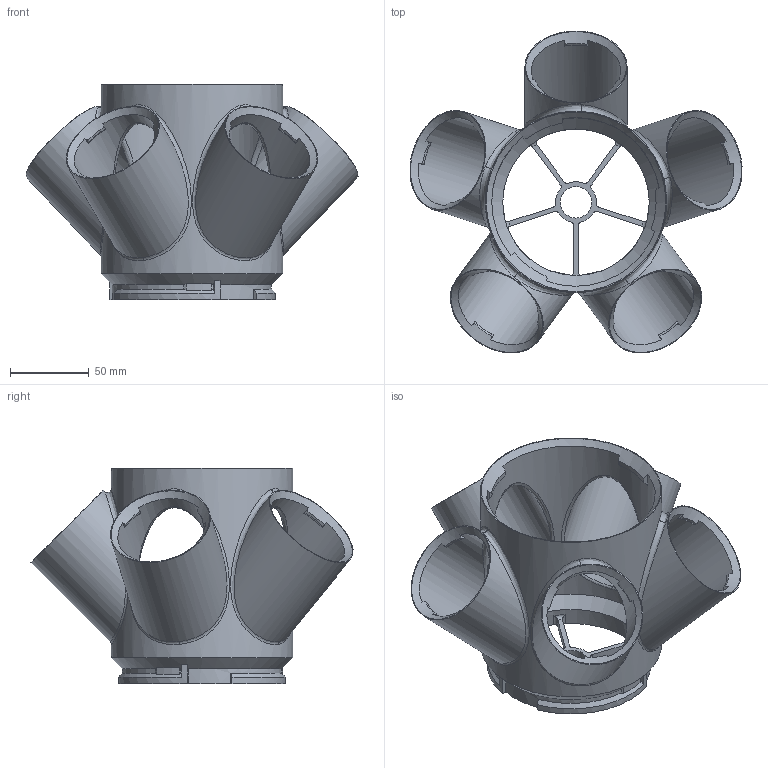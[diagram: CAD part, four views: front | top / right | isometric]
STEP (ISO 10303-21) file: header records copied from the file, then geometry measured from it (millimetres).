
FILE_DESCRIPTION(/* description */ (''),/* implementation_level */ '2;1');
FILE_NAME(/* name */ '5-Way_Planting_Module_Hollow_Without_M3_5-spokes.step',/* time_stamp */ '2023-06-10T17:33:43+02:00',/* author */ (''),/* organization */ (''),/* preprocessor_version */ 'ST-DEVELOPER v19.2',/* originating_system */ 'Autodesk Translation Framework v12.6.0.85',/* authorisation */ '');
FILE_SCHEMA (('AUTOMOTIVE_DESIGN { 1 0 10303 214 3 1 1 }'));
Length unit declared in the file: millimetre
Products named in the file (1): 5-Way_Planting_Module_Hollow_Without_M3 TEST
Bounding box: 210.69 x 204.34 x 136.5 mm (x, y, z)
Volume: 294113.1 mm3; surface area: 152466.5 mm2
Topology: 1 solids, 1 shells, 212 faces, 642 edges, 432 vertices
Faces by surface type: plane 90, cylinder 69, cone 29, bspline 20, torus 4
Full cylindrical faces by diameter (mm): 20 x1, 57 x5, 65 x5, 93 x1, 107 x1, 115 x1
Entity records: 17330 total; most frequent: CARTESIAN_POINT 11538, ORIENTED_EDGE 1282, DIRECTION 1157, EDGE_CURVE 641, VERTEX_POINT 432, AXIS2_PLACEMENT_3D 425, LINE 307, VECTOR 307
